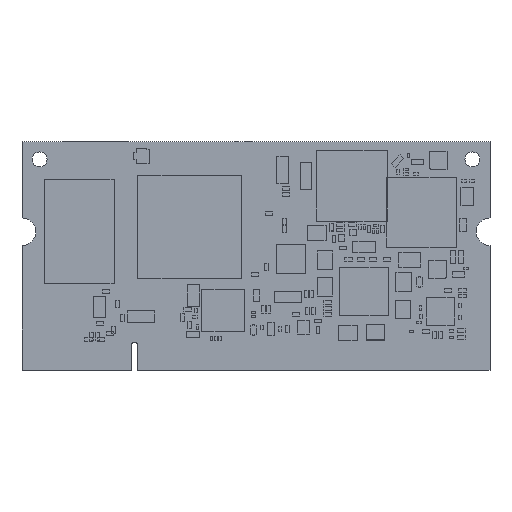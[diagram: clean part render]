
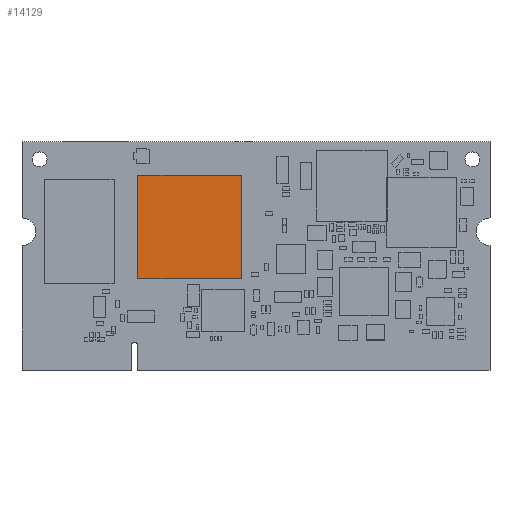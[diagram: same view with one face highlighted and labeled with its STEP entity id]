
A CAD part, top view. The second image highlights one B-rep face of the part: STEP entity #14129.
In plain terms, the highlighted planar face has unit normal (0, 0, 1).
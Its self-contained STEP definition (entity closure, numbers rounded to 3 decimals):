
#139 = DIRECTION ( 'NONE',  ( 0., -1., 0. ) ) ;
#2593 = CARTESIAN_POINT ( 'NONE',  ( 38.928, 47.168, 2.489 ) ) ;
#2796 = CARTESIAN_POINT ( 'NONE',  ( 23.928, 47.168, 2.489 ) ) ;
#3467 = ORIENTED_EDGE ( 'NONE', *, *, #47368, .T. ) ;
#4232 = VECTOR ( 'NONE', #19488, 1000. ) ;
#7375 = CARTESIAN_POINT ( 'NONE',  ( 0., 0., 2.489 ) ) ;
#8033 = VERTEX_POINT ( 'NONE', #13492 ) ;
#9576 = VECTOR ( 'NONE', #53698, 1000. ) ;
#11663 = ORIENTED_EDGE ( 'NONE', *, *, #42245, .T. ) ;
#13492 = CARTESIAN_POINT ( 'NONE',  ( 38.928, 47.168, 2.489 ) ) ;
#14129 = ADVANCED_FACE ( 'NONE', ( #28456 ), #45367, .F. ) ;
#15015 = CARTESIAN_POINT ( 'NONE',  ( 23.928, 62.168, 2.489 ) ) ;
#15800 = CARTESIAN_POINT ( 'NONE',  ( 38.928, 62.168, 2.489 ) ) ;
#15934 = EDGE_CURVE ( 'NONE', #22164, #43544, #52985, .T. ) ;
#18345 = AXIS2_PLACEMENT_3D ( 'NONE', #7375, #24260, #41159 ) ;
#19232 = VERTEX_POINT ( 'NONE', #2796 ) ;
#19373 = VECTOR ( 'NONE', #31937, 1000. ) ;
#19488 = DIRECTION ( 'NONE',  ( 1., 0., 0. ) ) ;
#19849 = LINE ( 'NONE', #36777, #9576 ) ;
#21227 = LINE ( 'NONE', #38140, #31816 ) ;
#22164 = VERTEX_POINT ( 'NONE', #15800 ) ;
#24260 = DIRECTION ( 'NONE',  ( 0., 0., -1. ) ) ;
#25649 = EDGE_LOOP ( 'NONE', ( #11663, #3467, #54084, #46319 ) ) ;
#28456 = FACE_OUTER_BOUND ( 'NONE', #25649, .T. ) ;
#31816 = VECTOR ( 'NONE', #139, 1000. ) ;
#31937 = DIRECTION ( 'NONE',  ( -1., 0., 0. ) ) ;
#33460 = EDGE_CURVE ( 'NONE', #8033, #22164, #19849, .T. ) ;
#36777 = CARTESIAN_POINT ( 'NONE',  ( 38.928, 62.168, 2.489 ) ) ;
#38140 = CARTESIAN_POINT ( 'NONE',  ( 23.928, 47.168, 2.489 ) ) ;
#40589 = LINE ( 'NONE', #2593, #4232 ) ;
#41159 = DIRECTION ( 'NONE',  ( -1., 0., 0. ) ) ;
#42245 = EDGE_CURVE ( 'NONE', #43544, #19232, #21227, .T. ) ;
#43544 = VERTEX_POINT ( 'NONE', #52303 ) ;
#45367 = PLANE ( 'NONE',  #18345 ) ;
#46319 = ORIENTED_EDGE ( 'NONE', *, *, #15934, .T. ) ;
#47368 = EDGE_CURVE ( 'NONE', #19232, #8033, #40589, .T. ) ;
#52303 = CARTESIAN_POINT ( 'NONE',  ( 23.928, 62.168, 2.489 ) ) ;
#52985 = LINE ( 'NONE', #15015, #19373 ) ;
#53698 = DIRECTION ( 'NONE',  ( 0., 1., 0. ) ) ;
#54084 = ORIENTED_EDGE ( 'NONE', *, *, #33460, .T. ) ;
